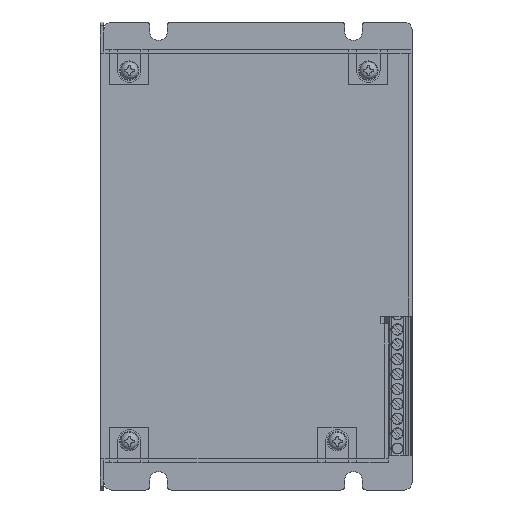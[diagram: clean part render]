
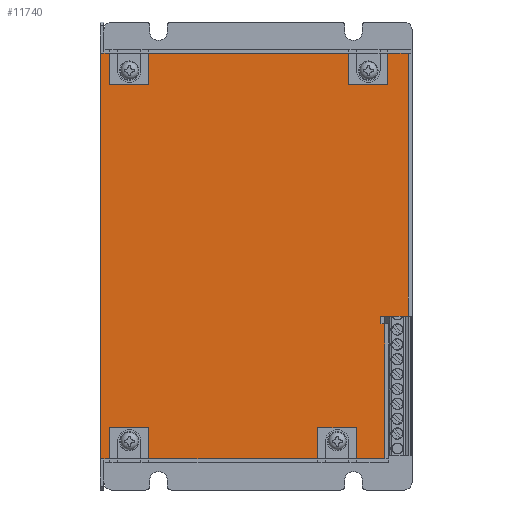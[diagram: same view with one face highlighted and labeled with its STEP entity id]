
A CAD part, left-side view. The second image highlights one B-rep face of the part: STEP entity #11740.
In plain terms, the highlighted planar face has unit normal (-1, 0, 0).
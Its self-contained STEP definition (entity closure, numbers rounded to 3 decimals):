
#11525=CARTESIAN_POINT('',(-227.6,263.056,92.6));
#11526=DIRECTION('',(-1.,0.,0.));
#11527=DIRECTION('',(0.,0.,-1.));
#11528=AXIS2_PLACEMENT_3D('',#11525,#11526,#11527);
#11529=PLANE('',#11528);
#11530=CARTESIAN_POINT('',(-227.6,242.656,8.));
#11531=VERTEX_POINT('',#11530);
#11532=CARTESIAN_POINT('',(-227.6,249.856,8.));
#11533=VERTEX_POINT('',#11532);
#11534=CARTESIAN_POINT('',(-227.6,242.656,8.));
#11535=DIRECTION('',(0.,1.,0.));
#11536=VECTOR('',#11535,7.2);
#11537=LINE('',#11534,#11536);
#11538=EDGE_CURVE('',#11531,#11533,#11537,.T.);
#11539=ORIENTED_EDGE('',*,*,#11538,.F.);
#11540=CARTESIAN_POINT('',(-227.6,242.656,42.6));
#11541=VERTEX_POINT('',#11540);
#11542=CARTESIAN_POINT('',(-227.6,242.656,8.));
#11543=DIRECTION('',(0.,0.,1.));
#11544=VECTOR('',#11543,34.6);
#11545=LINE('',#11542,#11544);
#11546=EDGE_CURVE('',#11531,#11541,#11545,.T.);
#11547=ORIENTED_EDGE('',*,*,#11546,.T.);
#11548=CARTESIAN_POINT('',(-227.6,243.656,42.6));
#11549=VERTEX_POINT('',#11548);
#11550=CARTESIAN_POINT('',(-227.6,242.656,42.6));
#11551=DIRECTION('',(0.,1.,0.));
#11552=VECTOR('',#11551,1.);
#11553=LINE('',#11550,#11552);
#11554=EDGE_CURVE('',#11541,#11549,#11553,.T.);
#11555=ORIENTED_EDGE('',*,*,#11554,.T.);
#11556=CARTESIAN_POINT('',(-227.6,243.656,44.6));
#11557=VERTEX_POINT('',#11556);
#11558=CARTESIAN_POINT('',(-227.6,243.656,42.6));
#11559=DIRECTION('',(0.,-0.,1.));
#11560=VECTOR('',#11559,2.);
#11561=LINE('',#11558,#11560);
#11562=EDGE_CURVE('',#11549,#11557,#11561,.T.);
#11563=ORIENTED_EDGE('',*,*,#11562,.T.);
#11564=CARTESIAN_POINT('',(-227.6,236.656,44.6));
#11565=VERTEX_POINT('',#11564);
#11566=CARTESIAN_POINT('',(-227.6,243.656,44.6));
#11567=DIRECTION('',(0.,-1.,0.));
#11568=VECTOR('',#11567,7.);
#11569=LINE('',#11566,#11568);
#11570=EDGE_CURVE('',#11557,#11565,#11569,.T.);
#11571=ORIENTED_EDGE('',*,*,#11570,.T.);
#11572=CARTESIAN_POINT('',(-227.6,236.656,112.));
#11573=VERTEX_POINT('',#11572);
#11574=CARTESIAN_POINT('',(-227.6,236.656,44.6));
#11575=DIRECTION('',(0.,0.,1.));
#11576=VECTOR('',#11575,67.4);
#11577=LINE('',#11574,#11576);
#11578=EDGE_CURVE('',#11565,#11573,#11577,.T.);
#11579=ORIENTED_EDGE('',*,*,#11578,.T.);
#11580=CARTESIAN_POINT('',(-227.6,241.856,112.));
#11581=VERTEX_POINT('',#11580);
#11582=CARTESIAN_POINT('',(-227.6,236.656,112.));
#11583=DIRECTION('',(0.,1.,0.));
#11584=VECTOR('',#11583,5.2);
#11585=LINE('',#11582,#11584);
#11586=EDGE_CURVE('',#11573,#11581,#11585,.T.);
#11587=ORIENTED_EDGE('',*,*,#11586,.T.);
#11588=CARTESIAN_POINT('',(-227.6,241.856,104.));
#11589=VERTEX_POINT('',#11588);
#11590=CARTESIAN_POINT('',(-227.6,241.856,112.));
#11591=DIRECTION('',(0.,0.,-1.));
#11592=VECTOR('',#11591,8.);
#11593=LINE('',#11590,#11592);
#11594=EDGE_CURVE('',#11581,#11589,#11593,.T.);
#11595=ORIENTED_EDGE('',*,*,#11594,.T.);
#11596=CARTESIAN_POINT('',(-227.6,251.856,104.));
#11597=VERTEX_POINT('',#11596);
#11598=CARTESIAN_POINT('',(-227.6,241.856,104.));
#11599=DIRECTION('',(0.,1.,-0.));
#11600=VECTOR('',#11599,10.);
#11601=LINE('',#11598,#11600);
#11602=EDGE_CURVE('',#11589,#11597,#11601,.T.);
#11603=ORIENTED_EDGE('',*,*,#11602,.T.);
#11604=CARTESIAN_POINT('',(-227.6,251.856,112.));
#11605=VERTEX_POINT('',#11604);
#11606=CARTESIAN_POINT('',(-227.6,251.856,104.));
#11607=DIRECTION('',(0.,0.,1.));
#11608=VECTOR('',#11607,8.);
#11609=LINE('',#11606,#11608);
#11610=EDGE_CURVE('',#11597,#11605,#11609,.T.);
#11611=ORIENTED_EDGE('',*,*,#11610,.T.);
#11612=CARTESIAN_POINT('',(-227.6,303.156,112.));
#11613=VERTEX_POINT('',#11612);
#11614=CARTESIAN_POINT('',(-227.6,251.856,112.));
#11615=DIRECTION('',(0.,1.,0.));
#11616=VECTOR('',#11615,51.3);
#11617=LINE('',#11614,#11616);
#11618=EDGE_CURVE('',#11605,#11613,#11617,.T.);
#11619=ORIENTED_EDGE('',*,*,#11618,.T.);
#11620=CARTESIAN_POINT('',(-227.6,303.156,104.));
#11621=VERTEX_POINT('',#11620);
#11622=CARTESIAN_POINT('',(-227.6,303.156,112.));
#11623=DIRECTION('',(0.,0.,-1.));
#11624=VECTOR('',#11623,8.);
#11625=LINE('',#11622,#11624);
#11626=EDGE_CURVE('',#11613,#11621,#11625,.T.);
#11627=ORIENTED_EDGE('',*,*,#11626,.T.);
#11628=CARTESIAN_POINT('',(-227.6,313.156,104.));
#11629=VERTEX_POINT('',#11628);
#11630=CARTESIAN_POINT('',(-227.6,303.156,104.));
#11631=DIRECTION('',(0.,1.,-0.));
#11632=VECTOR('',#11631,10.);
#11633=LINE('',#11630,#11632);
#11634=EDGE_CURVE('',#11621,#11629,#11633,.T.);
#11635=ORIENTED_EDGE('',*,*,#11634,.T.);
#11636=CARTESIAN_POINT('',(-227.6,313.156,112.));
#11637=VERTEX_POINT('',#11636);
#11638=CARTESIAN_POINT('',(-227.6,313.156,104.));
#11639=DIRECTION('',(0.,0.,1.));
#11640=VECTOR('',#11639,8.);
#11641=LINE('',#11638,#11640);
#11642=EDGE_CURVE('',#11629,#11637,#11641,.T.);
#11643=ORIENTED_EDGE('',*,*,#11642,.T.);
#11644=CARTESIAN_POINT('',(-227.6,314.656,112.));
#11645=VERTEX_POINT('',#11644);
#11646=CARTESIAN_POINT('',(-227.6,313.156,112.));
#11647=DIRECTION('',(0.,1.,0.));
#11648=VECTOR('',#11647,1.5);
#11649=LINE('',#11646,#11648);
#11650=EDGE_CURVE('',#11637,#11645,#11649,.T.);
#11651=ORIENTED_EDGE('',*,*,#11650,.T.);
#11652=CARTESIAN_POINT('',(-227.6,315.656,112.));
#11653=VERTEX_POINT('',#11652);
#11654=CARTESIAN_POINT('',(-227.6,314.656,112.));
#11655=DIRECTION('',(0.,1.,0.));
#11656=VECTOR('',#11655,1.);
#11657=LINE('',#11654,#11656);
#11658=EDGE_CURVE('',#11645,#11653,#11657,.T.);
#11659=ORIENTED_EDGE('',*,*,#11658,.T.);
#11660=CARTESIAN_POINT('',(-227.6,315.656,8.));
#11661=VERTEX_POINT('',#11660);
#11662=CARTESIAN_POINT('',(-227.6,315.656,112.));
#11663=DIRECTION('',(0.,0.,-1.));
#11664=VECTOR('',#11663,104.);
#11665=LINE('',#11662,#11664);
#11666=EDGE_CURVE('',#11653,#11661,#11665,.T.);
#11667=ORIENTED_EDGE('',*,*,#11666,.T.);
#11668=CARTESIAN_POINT('',(-227.6,314.656,8.));
#11669=VERTEX_POINT('',#11668);
#11670=CARTESIAN_POINT('',(-227.6,315.656,8.));
#11671=DIRECTION('',(0.,-1.,0.));
#11672=VECTOR('',#11671,1.);
#11673=LINE('',#11670,#11672);
#11674=EDGE_CURVE('',#11661,#11669,#11673,.T.);
#11675=ORIENTED_EDGE('',*,*,#11674,.T.);
#11676=CARTESIAN_POINT('',(-227.6,313.156,8.));
#11677=VERTEX_POINT('',#11676);
#11678=CARTESIAN_POINT('',(-227.6,313.156,8.));
#11679=DIRECTION('',(0.,1.,0.));
#11680=VECTOR('',#11679,1.5);
#11681=LINE('',#11678,#11680);
#11682=EDGE_CURVE('',#11677,#11669,#11681,.T.);
#11683=ORIENTED_EDGE('',*,*,#11682,.F.);
#11684=CARTESIAN_POINT('',(-227.6,313.156,16.));
#11685=VERTEX_POINT('',#11684);
#11686=CARTESIAN_POINT('',(-227.6,313.156,8.));
#11687=DIRECTION('',(0.,-0.,1.));
#11688=VECTOR('',#11687,8.);
#11689=LINE('',#11686,#11688);
#11690=EDGE_CURVE('',#11677,#11685,#11689,.T.);
#11691=ORIENTED_EDGE('',*,*,#11690,.T.);
#11692=CARTESIAN_POINT('',(-227.6,303.156,16.));
#11693=VERTEX_POINT('',#11692);
#11694=CARTESIAN_POINT('',(-227.6,313.156,16.));
#11695=DIRECTION('',(0.,-1.,0.));
#11696=VECTOR('',#11695,10.);
#11697=LINE('',#11694,#11696);
#11698=EDGE_CURVE('',#11685,#11693,#11697,.T.);
#11699=ORIENTED_EDGE('',*,*,#11698,.T.);
#11700=CARTESIAN_POINT('',(-227.6,303.156,8.));
#11701=VERTEX_POINT('',#11700);
#11702=CARTESIAN_POINT('',(-227.6,303.156,16.));
#11703=DIRECTION('',(0.,0.,-1.));
#11704=VECTOR('',#11703,8.);
#11705=LINE('',#11702,#11704);
#11706=EDGE_CURVE('',#11693,#11701,#11705,.T.);
#11707=ORIENTED_EDGE('',*,*,#11706,.T.);
#11708=CARTESIAN_POINT('',(-227.6,259.856,8.));
#11709=VERTEX_POINT('',#11708);
#11710=CARTESIAN_POINT('',(-227.6,259.856,8.));
#11711=DIRECTION('',(0.,1.,0.));
#11712=VECTOR('',#11711,43.3);
#11713=LINE('',#11710,#11712);
#11714=EDGE_CURVE('',#11709,#11701,#11713,.T.);
#11715=ORIENTED_EDGE('',*,*,#11714,.F.);
#11716=CARTESIAN_POINT('',(-227.6,259.856,16.));
#11717=VERTEX_POINT('',#11716);
#11718=CARTESIAN_POINT('',(-227.6,259.856,8.));
#11719=DIRECTION('',(0.,-0.,1.));
#11720=VECTOR('',#11719,8.);
#11721=LINE('',#11718,#11720);
#11722=EDGE_CURVE('',#11709,#11717,#11721,.T.);
#11723=ORIENTED_EDGE('',*,*,#11722,.T.);
#11724=CARTESIAN_POINT('',(-227.6,249.856,16.));
#11725=VERTEX_POINT('',#11724);
#11726=CARTESIAN_POINT('',(-227.6,259.856,16.));
#11727=DIRECTION('',(0.,-1.,0.));
#11728=VECTOR('',#11727,10.);
#11729=LINE('',#11726,#11728);
#11730=EDGE_CURVE('',#11717,#11725,#11729,.T.);
#11731=ORIENTED_EDGE('',*,*,#11730,.T.);
#11732=CARTESIAN_POINT('',(-227.6,249.856,16.));
#11733=DIRECTION('',(0.,0.,-1.));
#11734=VECTOR('',#11733,8.);
#11735=LINE('',#11732,#11734);
#11736=EDGE_CURVE('',#11725,#11533,#11735,.T.);
#11737=ORIENTED_EDGE('',*,*,#11736,.T.);
#11738=EDGE_LOOP('',(#11539,#11547,#11555,#11563,#11571,#11579,#11587,#11595,#11603,#11611,#11619,#11627,#11635,#11643,#11651,#11659,#11667,#11675,#11683,#11691,#11699,#11707,#11715,#11723,#11731,#11737));
#11739=FACE_BOUND('',#11738,.T.);
#11740=ADVANCED_FACE('',(#11739),#11529,.T.);
